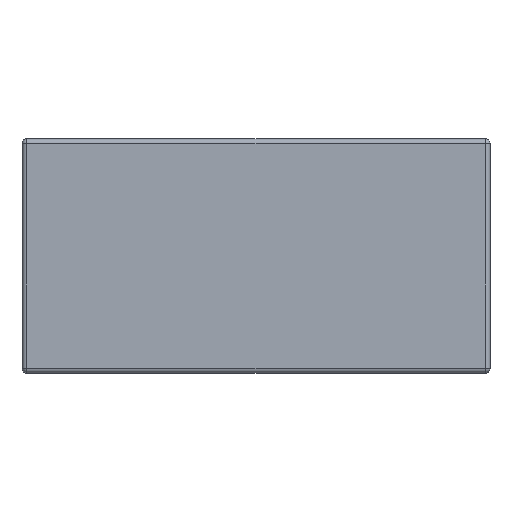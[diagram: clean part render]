
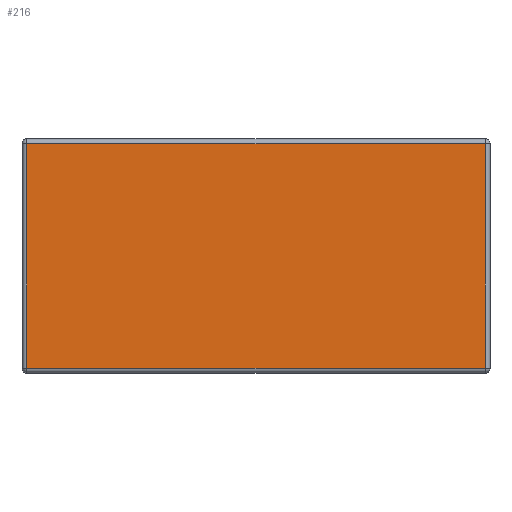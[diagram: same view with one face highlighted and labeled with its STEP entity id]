
A CAD part, top view. The second image highlights one B-rep face of the part: STEP entity #216.
In plain terms, the highlighted planar face has unit normal (0, 0, 1).
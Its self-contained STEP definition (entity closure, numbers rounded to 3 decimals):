
#31=LINE('',#953,#51);
#32=LINE('',#956,#52);
#33=LINE('',#958,#53);
#34=LINE('',#960,#54);
#51=VECTOR('',#771,1.);
#52=VECTOR('',#772,1.);
#53=VECTOR('',#773,1.);
#54=VECTOR('',#774,1.);
#153=PLANE('',#656);
#176=FACE_OUTER_BOUND('',#320,.T.);
#216=ADVANCED_FACE('',(#176),#153,.T.);
#320=EDGE_LOOP('',(#386,#387,#388,#389));
#386=ORIENTED_EDGE('',*,*,#540,.T.);
#387=ORIENTED_EDGE('',*,*,#541,.T.);
#388=ORIENTED_EDGE('',*,*,#542,.T.);
#389=ORIENTED_EDGE('',*,*,#543,.T.);
#496=VERTEX_POINT('',#954);
#497=VERTEX_POINT('',#955);
#498=VERTEX_POINT('',#957);
#499=VERTEX_POINT('',#959);
#540=EDGE_CURVE('',#496,#497,#31,.T.);
#541=EDGE_CURVE('',#497,#498,#32,.T.);
#542=EDGE_CURVE('',#498,#499,#33,.T.);
#543=EDGE_CURVE('',#499,#496,#34,.T.);
#656=AXIS2_PLACEMENT_3D('',#961,#775,#776);
#771=DIRECTION('',(1.,0.,0.));
#772=DIRECTION('',(0.,1.,0.));
#773=DIRECTION('',(-1.,0.,0.));
#774=DIRECTION('',(0.,-1.,0.));
#775=DIRECTION('',(0.,0.,1.));
#776=DIRECTION('',(1.,0.,0.));
#953=CARTESIAN_POINT('',(25.4,-12.2,11.8));
#954=CARTESIAN_POINT('',(-24.9,-12.2,11.8));
#955=CARTESIAN_POINT('',(24.9,-12.2,11.8));
#956=CARTESIAN_POINT('',(24.9,12.7,11.8));
#957=CARTESIAN_POINT('',(24.9,12.2,11.8));
#958=CARTESIAN_POINT('',(-25.4,12.2,11.8));
#959=CARTESIAN_POINT('',(-24.9,12.2,11.8));
#960=CARTESIAN_POINT('',(-24.9,-12.7,11.8));
#961=CARTESIAN_POINT('',(-12.7,0.,11.8));
